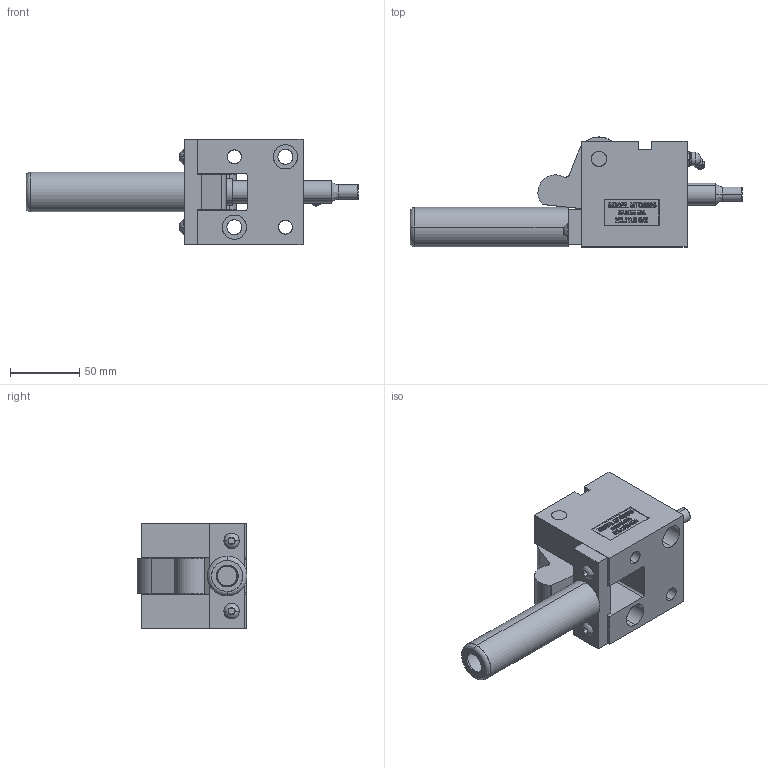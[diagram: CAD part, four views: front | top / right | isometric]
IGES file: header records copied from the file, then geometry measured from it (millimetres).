
Start section: SolidWorks IGES file using analytic representation for surfaces
Global section: file name: Y:\METRIC With OFFSETRIGGER\TOPMOUNT\MTOS62545\CLOSED\MTOS62545-C.IGS; native system: SolidWorks 2006 by SolidWorks Corporation; preprocessor: SolidWorks 2006 by SolidWorks Corporation; author: Jim; date: 090121.150807; units: inch
Bounding box: 239.57 x 79.37 x 76.2 mm (x, y, z)
Surface area: 98863.1 mm2 (no closed solid volume)
Topology: 0 solids, 0 shells, 603 faces, 7215 edges, 7211 vertices
Faces by surface type: bspline 489, revolution 114
